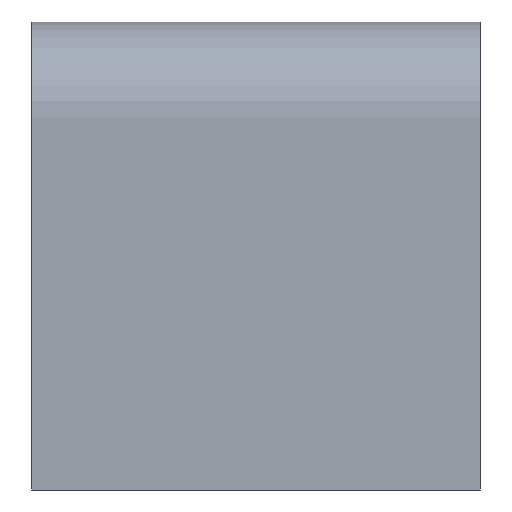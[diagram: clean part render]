
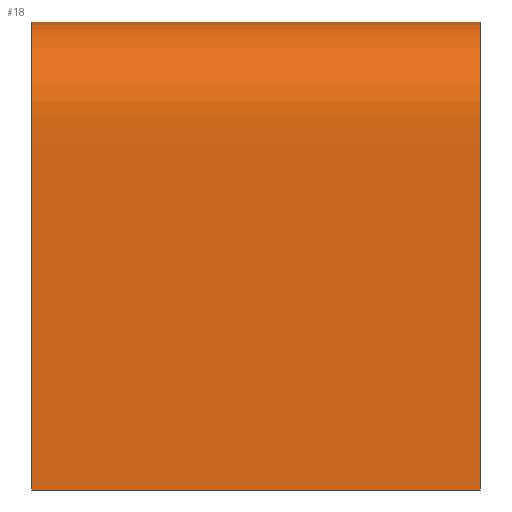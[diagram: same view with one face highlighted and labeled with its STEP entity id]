
A CAD part, left-side view. The second image highlights one B-rep face of the part: STEP entity #18.
In plain terms, the highlighted free-form (B-spline) face has degree [1, 2] with [2, 11] control points.
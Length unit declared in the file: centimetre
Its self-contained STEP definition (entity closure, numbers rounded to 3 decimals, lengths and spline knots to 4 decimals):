
#18=ADVANCED_FACE($,(#24),#77,.T.);
#24=FACE_OUTER_BOUND($,#30,.T.);
#30=EDGE_LOOP($,(#48,#49,#50,#51));
#48=ORIENTED_EDGE($,*,*,#61,.T.);
#49=ORIENTED_EDGE($,*,*,#66,.T.);
#50=ORIENTED_EDGE($,*,*,#64,.F.);
#51=ORIENTED_EDGE($,*,*,#67,.F.);
#61=EDGE_CURVE($,#72,#71,#83,.T.);
#64=EDGE_CURVE($,#75,#74,#85,.T.);
#66=EDGE_CURVE($,#71,#74,#92,.T.);
#67=EDGE_CURVE($,#72,#75,#93,.T.);
#71=VERTEX_POINT($,#307);
#72=VERTEX_POINT($,#308);
#74=VERTEX_POINT($,#310);
#75=VERTEX_POINT($,#311);
#77=(
BOUNDED_SURFACE()
B_SPLINE_SURFACE(1,2,((#281,#282,#283,#284,#285,#286,#287,#288,#289,#290,
#291),(#292,#293,#294,#295,#296,#297,#298,#299,#300,#301,#302)),.UNSPECIFIED.,
.F.,.F.,.F.)
B_SPLINE_SURFACE_WITH_KNOTS((2,2),(3,2,2,2,2,3),(0.,70.),(-289.4823,
-231.9823,-209.9911,-80.9911,-59.,-1.5),.UNSPECIFIED.)
GEOMETRIC_REPRESENTATION_ITEM()
RATIONAL_B_SPLINE_SURFACE(((1.,1.,1.,0.707,1.,1.,1.,0.707,
1.,1.,1.),(1.,1.,1.,0.707,1.,1.,1.,0.707,1.,1.,1.)))
REPRESENTATION_ITEM($)
SURFACE()
);
#83=(
BOUNDED_CURVE()
B_SPLINE_CURVE(2,(#215,#216,#217,#218,#219,#220,#221,#222,#223,#224,#225),
.UNSPECIFIED.,.F.,.F.)
B_SPLINE_CURVE_WITH_KNOTS((3,2,2,2,2,3),(1.5,59.,80.9911,209.9911,
231.9823,289.4823),.UNSPECIFIED.)
CURVE()
GEOMETRIC_REPRESENTATION_ITEM()
RATIONAL_B_SPLINE_CURVE((1.,1.,1.,0.707,1.,1.,1.,0.707,
1.,1.,1.))
REPRESENTATION_ITEM($)
);
#85=(
BOUNDED_CURVE()
B_SPLINE_CURVE(2,(#239,#240,#241,#242,#243,#244,#245,#246,#247,#248,#249),
.UNSPECIFIED.,.F.,.F.)
B_SPLINE_CURVE_WITH_KNOTS((3,2,2,2,2,3),(1.5,59.,80.9911,209.9911,
231.9823,289.4823),.UNSPECIFIED.)
CURVE()
GEOMETRIC_REPRESENTATION_ITEM()
RATIONAL_B_SPLINE_CURVE((1.,1.,1.,0.707,1.,1.,1.,0.707,
1.,1.,1.))
REPRESENTATION_ITEM($)
);
#92=B_SPLINE_CURVE_WITH_KNOTS($,1,(#252,#253),.UNSPECIFIED.,.F.,.F.,(2,2),
(0.,70.),.UNSPECIFIED.);
#93=B_SPLINE_CURVE_WITH_KNOTS($,1,(#254,#255),.UNSPECIFIED.,.F.,.F.,(2,2),
(0.,70.),.UNSPECIFIED.);
#215=CARTESIAN_POINT($,(0.,0.,0.));
#216=CARTESIAN_POINT($,(0.,0.,28.75));
#217=CARTESIAN_POINT($,(0.,0.,57.5));
#218=CARTESIAN_POINT($,(0.,0.,73.));
#219=CARTESIAN_POINT($,(15.5,0.,73.));
#220=CARTESIAN_POINT($,(80.,0.,73.));
#221=CARTESIAN_POINT($,(144.5,0.,73.));
#222=CARTESIAN_POINT($,(160.,0.,73.));
#223=CARTESIAN_POINT($,(160.,0.,57.5));
#224=CARTESIAN_POINT($,(160.,0.,28.75));
#225=CARTESIAN_POINT($,(160.,0.,0.));
#239=CARTESIAN_POINT($,(0.,70.,0.));
#240=CARTESIAN_POINT($,(0.,70.,28.75));
#241=CARTESIAN_POINT($,(0.,70.,57.5));
#242=CARTESIAN_POINT($,(0.,70.,73.));
#243=CARTESIAN_POINT($,(15.5,70.,73.));
#244=CARTESIAN_POINT($,(80.,70.,73.));
#245=CARTESIAN_POINT($,(144.5,70.,73.));
#246=CARTESIAN_POINT($,(160.,70.,73.));
#247=CARTESIAN_POINT($,(160.,70.,57.5));
#248=CARTESIAN_POINT($,(160.,70.,28.75));
#249=CARTESIAN_POINT($,(160.,70.,0.));
#252=CARTESIAN_POINT($,(160.,0.,0.));
#253=CARTESIAN_POINT($,(160.,70.,0.));
#254=CARTESIAN_POINT($,(0.,0.,0.));
#255=CARTESIAN_POINT($,(0.,70.,0.));
#281=CARTESIAN_POINT($,(160.,0.,0.));
#282=CARTESIAN_POINT($,(160.,0.,28.75));
#283=CARTESIAN_POINT($,(160.,0.,57.5));
#284=CARTESIAN_POINT($,(160.,0.,73.));
#285=CARTESIAN_POINT($,(144.5,0.,73.));
#286=CARTESIAN_POINT($,(80.,0.,73.));
#287=CARTESIAN_POINT($,(15.5,0.,73.));
#288=CARTESIAN_POINT($,(0.,0.,73.));
#289=CARTESIAN_POINT($,(0.,0.,57.5));
#290=CARTESIAN_POINT($,(0.,0.,28.75));
#291=CARTESIAN_POINT($,(0.,0.,0.));
#292=CARTESIAN_POINT($,(160.,70.,0.));
#293=CARTESIAN_POINT($,(160.,70.,28.75));
#294=CARTESIAN_POINT($,(160.,70.,57.5));
#295=CARTESIAN_POINT($,(160.,70.,73.));
#296=CARTESIAN_POINT($,(144.5,70.,73.));
#297=CARTESIAN_POINT($,(80.,70.,73.));
#298=CARTESIAN_POINT($,(15.5,70.,73.));
#299=CARTESIAN_POINT($,(0.,70.,73.));
#300=CARTESIAN_POINT($,(0.,70.,57.5));
#301=CARTESIAN_POINT($,(0.,70.,28.75));
#302=CARTESIAN_POINT($,(0.,70.,0.));
#307=CARTESIAN_POINT($,(160.,0.,0.));
#308=CARTESIAN_POINT($,(0.,0.,0.));
#310=CARTESIAN_POINT($,(160.,70.,0.));
#311=CARTESIAN_POINT($,(0.,70.,0.));
